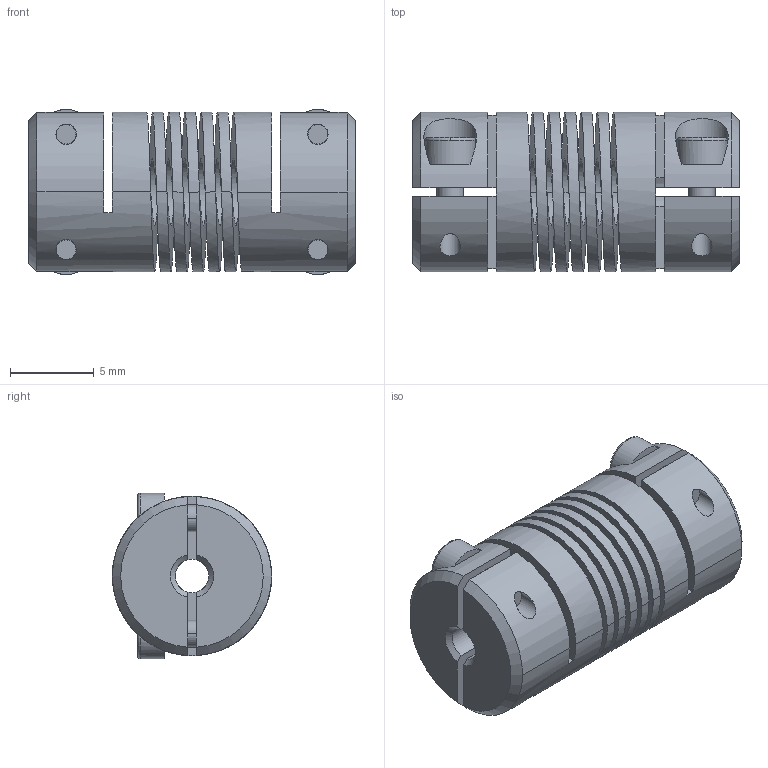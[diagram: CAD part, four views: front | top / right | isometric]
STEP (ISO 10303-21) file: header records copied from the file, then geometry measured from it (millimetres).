
FILE_DESCRIPTION((''),'2;1');
FILE_NAME('723_09','2026-02-24T',('SYSTEM'),(''),'PRO/ENGINEER BY PARAMETRIC TECHNOLOGY CORPORATION, 2016360','PRO/ENGINEER BY PARAMETRIC TECHNOLOGY CORPORATION, 2016360','');
FILE_SCHEMA(('AUTOMOTIVE_DESIGN { 1 0 10303 214 1 1 1 1 }'));
Length unit declared in the file: inch
Products named in the file (1): 723_09
Bounding box: 19.55 x 9.53 x 9.9 mm (x, y, z)
Surface area: 1959.8 mm2 (no closed solid volume)
Topology: 0 solids, 1 shells, 181 faces, 514 edges, 335 vertices
Faces by surface type: cylinder 72, plane 67, cone 24, torus 16, bspline 2
Entity records: 9284 total; most frequent: CARTESIAN_POINT 3243, ORIENTED_EDGE 1006, DIRECTION 925, EDGE_CURVE 506, AXIS2_PLACEMENT_3D 361, VERTEX_POINT 335, EDGE_LOOP 204, VECTOR 203
